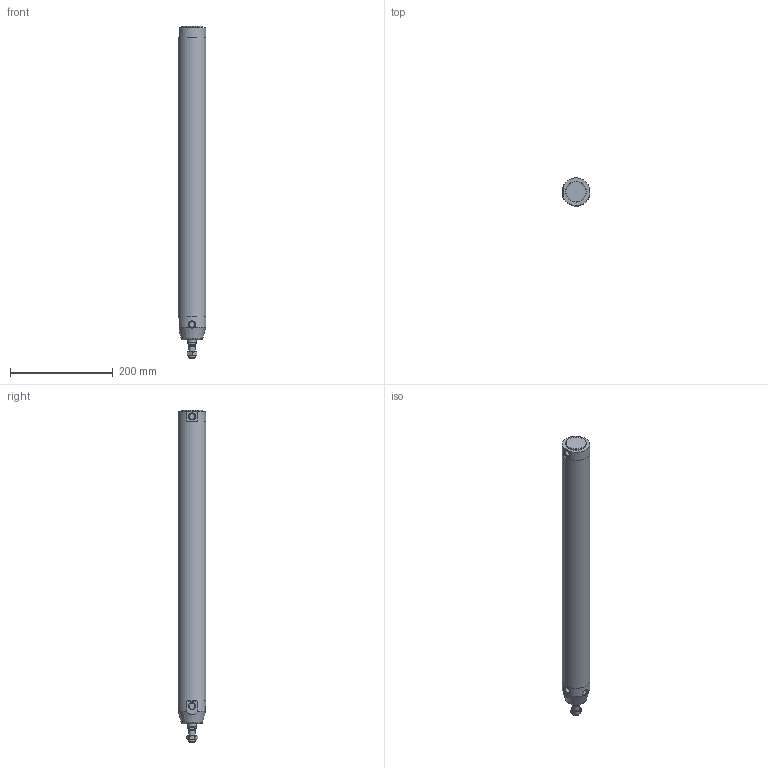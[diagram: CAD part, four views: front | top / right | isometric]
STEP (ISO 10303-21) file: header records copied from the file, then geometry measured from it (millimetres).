
FILE_DESCRIPTION(/* description */ (''),/* implementation_level */ '2;1');
FILE_NAME(/* name */ 'I:\Area Tecnica\Documenti\A-Manieri\_Inventor\12X\12X#E_###_####_#_#\12XAE_050_0500_#_#.stp',/* time_stamp */ '2015-05-08T13:40:59+02:00',/* author */ ('maniean1'),/* organization */ ('Pneumax S.p.A.'),/* preprocessor_version */ 'ST-DEVELOPER v15.2',/* originating_system */ 'Autodesk Inventor 2014',/* authorisation */ '');
FILE_SCHEMA (('AUTOMOTIVE_DESIGN { 1 0 10303 214 3 1 1 }'));
Length unit declared in the file: millimetre
Products named in the file (6): C1250_619-0500; 12X50_622; S12X50_0500; 12X_50_11; 12X50_611; 12XAE_050_0500_#_#
Bounding box: 54 x 54 x 645 mm (x, y, z)
Volume: 502593.1 mm3; surface area: 240079.2 mm2
Topology: 5 solids, 5 shells, 65 faces, 132 edges, 84 vertices
Faces by surface type: plane 33, cylinder 18, cone 13, torus 1
Full cylindrical faces by diameter (mm): 10.2 x1, 10.9 x2, 11.4 x2, 12 x2, 14 x1, 14.1 x2, 15.6 x1, 16 x1, 40 x1, 50 x2, 54 x3
Entity records: 1691 total; most frequent: CARTESIAN_POINT 368, DIRECTION 279, ORIENTED_EDGE 190, AXIS2_PLACEMENT_3D 129, EDGE_LOOP 108, EDGE_CURVE 95, VERTEX_POINT 77, ADVANCED_FACE 65
